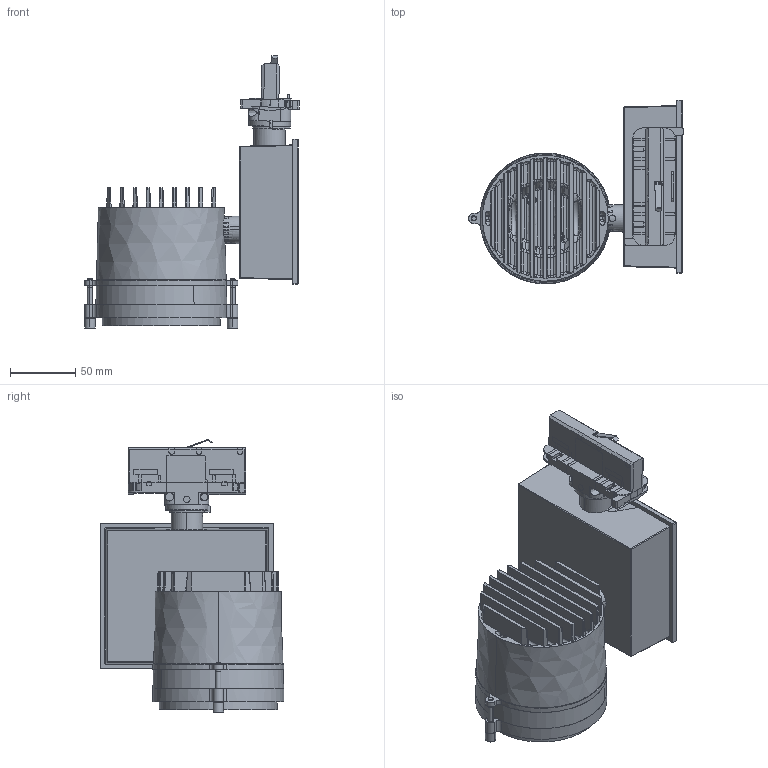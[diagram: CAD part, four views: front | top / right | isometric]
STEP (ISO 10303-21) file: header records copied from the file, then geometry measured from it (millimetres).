
FILE_DESCRIPTION(/* description */ (''),/* implementation_level */ '2;1');
FILE_NAME(/* name */ 'Picto 100 Orizzontale + anti-dazzle louvre AD14S0Y__',/* time_stamp */ '2018-02-19T16:22:48+01:00',/* author */ (''),/* organization */ (''),/* preprocessor_version */ 'ST-DEVELOPER v15',/* originating_system */ '',/* authorisation */ '');
FILE_SCHEMA (('CONFIG_CONTROL_DESIGN'));
Products named in the file (1): Document
Bounding box: 163.89 x 140 x 208.43 mm (x, y, z)
Volume: 34596.2 mm3; surface area: 237248.4 mm2
Topology: 5 solids, 1208 shells, 3404 faces, 12068 edges, 9446 vertices
Faces by surface type: plane 2828, bspline 576
Entity records: 130317 total; most frequent: CARTESIAN_POINT 62902, ORIENTED_EDGE 14726, EDGE_CURVE 12003, B_SPLINE_CURVE_WITH_KNOTS 9973, VERTEX_POINT 9448, EDGE_LOOP 3435, ADVANCED_FACE 3402, FACE_OUTER_BOUND 3402
